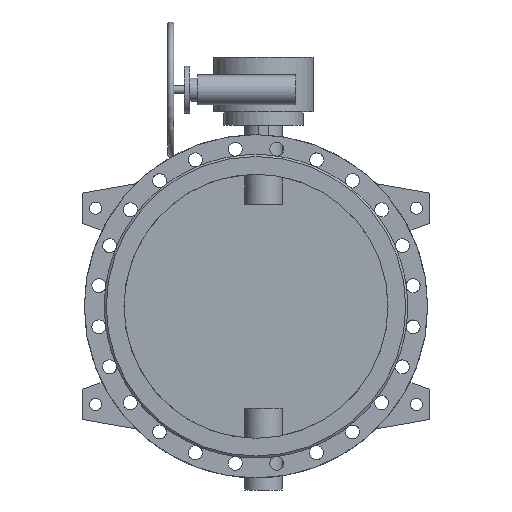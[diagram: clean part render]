
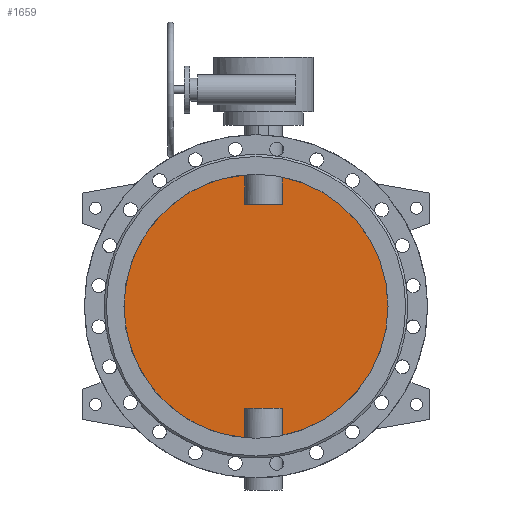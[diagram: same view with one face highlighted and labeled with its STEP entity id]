
A CAD part, front view. The second image highlights one B-rep face of the part: STEP entity #1659.
In plain terms, the highlighted planar face has unit normal (0, -1, 0).
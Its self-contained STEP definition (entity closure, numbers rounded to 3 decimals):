
#1659=ADVANCED_FACE('',(#3405),#3407,.F.);
#3405=FACE_BOUND('',#3406,.T.);
#3406=EDGE_LOOP('',(#4630,#4631,#4632,#4633,#4634,#4635,#4636,#4637));
#3407=PLANE('',#3408);
#3408=AXIS2_PLACEMENT_3D('',#3409,#3410,#3411);
#3409=CARTESIAN_POINT('',(0.,-5.,0.));
#3410=DIRECTION('',(0.,1.,0.));
#3411=DIRECTION('',(1.,0.,0.));
#4630=ORIENTED_EDGE('',*,*,#5258,.T.);
#4631=ORIENTED_EDGE('',*,*,#5268,.T.);
#4632=ORIENTED_EDGE('',*,*,#5269,.T.);
#4633=ORIENTED_EDGE('',*,*,#5270,.T.);
#4634=ORIENTED_EDGE('',*,*,#5260,.T.);
#4635=ORIENTED_EDGE('',*,*,#5271,.T.);
#4636=ORIENTED_EDGE('',*,*,#5272,.T.);
#4637=ORIENTED_EDGE('',*,*,#5273,.T.);
#5258=EDGE_CURVE('',#6247,#6248,#6249,.F.);
#5260=EDGE_CURVE('',#6252,#6250,#6253,.F.);
#5268=EDGE_CURVE('',#6248,#6267,#6268,.T.);
#5269=EDGE_CURVE('',#6267,#6269,#6270,.F.);
#5270=EDGE_CURVE('',#6269,#6252,#6271,.F.);
#5271=EDGE_CURVE('',#6250,#6272,#6273,.F.);
#5272=EDGE_CURVE('',#6272,#6274,#6275,.F.);
#5273=EDGE_CURVE('',#6274,#6247,#6276,.T.);
#6247=VERTEX_POINT('',#11156);
#6248=VERTEX_POINT('',#11157);
#6249=CIRCLE('',#11158,350.);
#6250=VERTEX_POINT('',#11162);
#6252=VERTEX_POINT('',#11204);
#6253=CIRCLE('',#11205,350.);
#6267=VERTEX_POINT('',#11347);
#6268=LINE('',#11348,#11349);
#6269=VERTEX_POINT('',#11351);
#6270=LINE('',#11352,#11353);
#6271=LINE('',#11355,#11356);
#6272=VERTEX_POINT('',#11358);
#6273=LINE('',#11359,#11360);
#6274=VERTEX_POINT('',#11362);
#6275=LINE('',#11363,#11364);
#6276=LINE('',#11366,#11367);
#11156=CARTESIAN_POINT('',(69.749,-5.,-342.98));
#11157=CARTESIAN_POINT('',(69.749,-5.,342.98));
#11158=AXIS2_PLACEMENT_3D('',#11159,#11160,#11161);
#11159=CARTESIAN_POINT('',(0.,-5.,0.));
#11160=DIRECTION('',(0.,1.,0.));
#11161=DIRECTION('',(0.199,0.,0.98));
#11162=CARTESIAN_POINT('',(-29.749,-5.,-348.733));
#11204=CARTESIAN_POINT('',(-29.749,-5.,348.733));
#11205=AXIS2_PLACEMENT_3D('',#11206,#11207,#11208);
#11206=CARTESIAN_POINT('',(0.,-5.,0.));
#11207=DIRECTION('',(0.,1.,0.));
#11208=DIRECTION('',(-0.085,0.,-0.996));
#11347=CARTESIAN_POINT('',(69.749,-5.,270.));
#11348=CARTESIAN_POINT('',(69.749,-5.,342.98));
#11349=VECTOR('',#11350,1.);
#11350=DIRECTION('',(0.,0.,-1.));
#11351=CARTESIAN_POINT('',(-29.749,-5.,270.));
#11352=CARTESIAN_POINT('',(-29.749,-5.,270.));
#11353=VECTOR('',#11354,1.);
#11354=DIRECTION('',(1.,0.,0.));
#11355=CARTESIAN_POINT('',(-29.749,-5.,348.733));
#11356=VECTOR('',#11357,1.);
#11357=DIRECTION('',(0.,0.,-1.));
#11358=CARTESIAN_POINT('',(-29.749,-5.,-270.));
#11359=CARTESIAN_POINT('',(-29.749,-5.,-270.));
#11360=VECTOR('',#11361,1.);
#11361=DIRECTION('',(0.,0.,-1.));
#11362=CARTESIAN_POINT('',(69.749,-5.,-270.));
#11363=CARTESIAN_POINT('',(69.749,-5.,-270.));
#11364=VECTOR('',#11365,1.);
#11365=DIRECTION('',(-1.,0.,0.));
#11366=CARTESIAN_POINT('',(69.749,-5.,-270.));
#11367=VECTOR('',#11368,1.);
#11368=DIRECTION('',(0.,0.,-1.));
